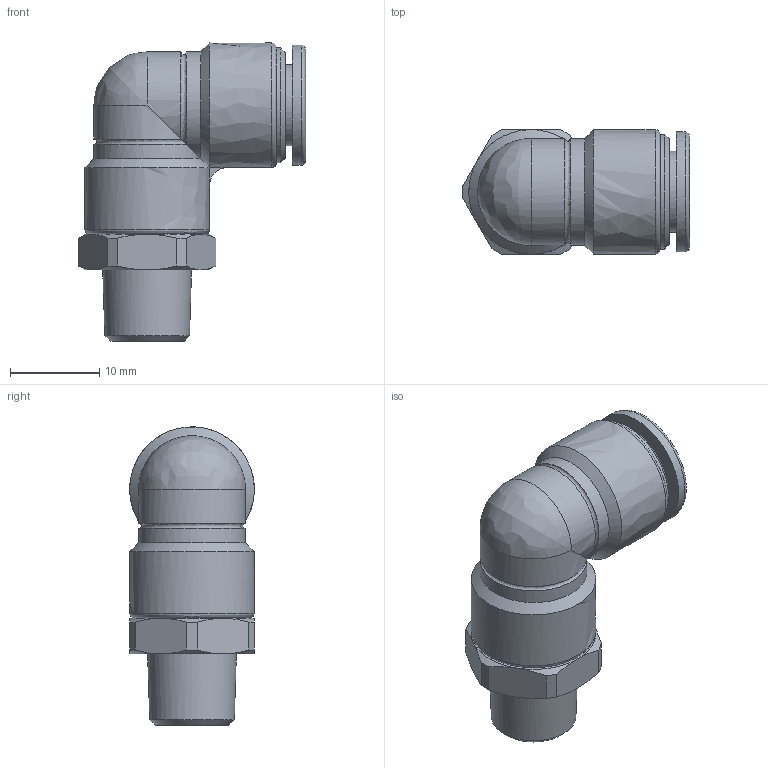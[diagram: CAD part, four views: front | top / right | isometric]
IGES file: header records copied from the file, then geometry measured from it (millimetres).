
Global section: file name: [08] FS8-01ML FS8-01MLW; native system: Autodesk Inventor 2014; preprocessor: unknown; author: kazuhiro.t; date: 20130806.164947; units: millimetre
Bounding box: 25.53 x 14 x 33.5 mm (x, y, z)
Volume: 4827.4 mm3; surface area: 2582.3 mm2
Topology: 1 solids, 1 shells, 60 faces, 137 edges, 83 vertices
Faces by surface type: bspline 60
